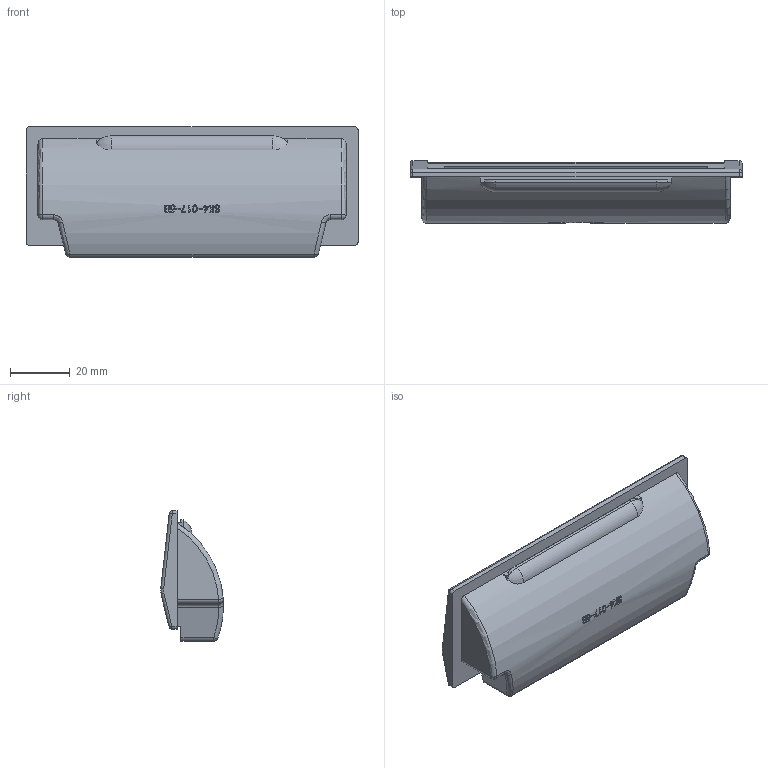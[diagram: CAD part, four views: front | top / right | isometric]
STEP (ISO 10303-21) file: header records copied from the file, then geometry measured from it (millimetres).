
FILE_DESCRIPTION (( 'STEP AP203' ), '1' );
FILE_NAME ('SK4-017-5B.STEP', '2018-11-02T05:10:09', ( 'admin' ), ( 'Microsoft' ), 'SwSTEP 2.0', 'SolidWorks 2015', '' );
FILE_SCHEMA (( 'CONFIG_CONTROL_DESIGN' ));
Length unit declared in the file: millimetre
Products named in the file (1): SK4-017-5B
Bounding box: 111 x 21 x 43.5 mm (x, y, z)
Volume: 19714.1 mm3; surface area: 18924.4 mm2
Topology: 1 solids, 1 shells, 198 faces, 507 edges, 322 vertices
Faces by surface type: plane 94, bspline 49, cylinder 43, sphere 8, torus 4
Entity records: 12860 total; most frequent: CARTESIAN_POINT 8401, ORIENTED_EDGE 1002, DIRECTION 753, EDGE_CURVE 501, VERTEX_POINT 320, AXIS2_PLACEMENT_3D 264, VECTOR 225, LINE 225
